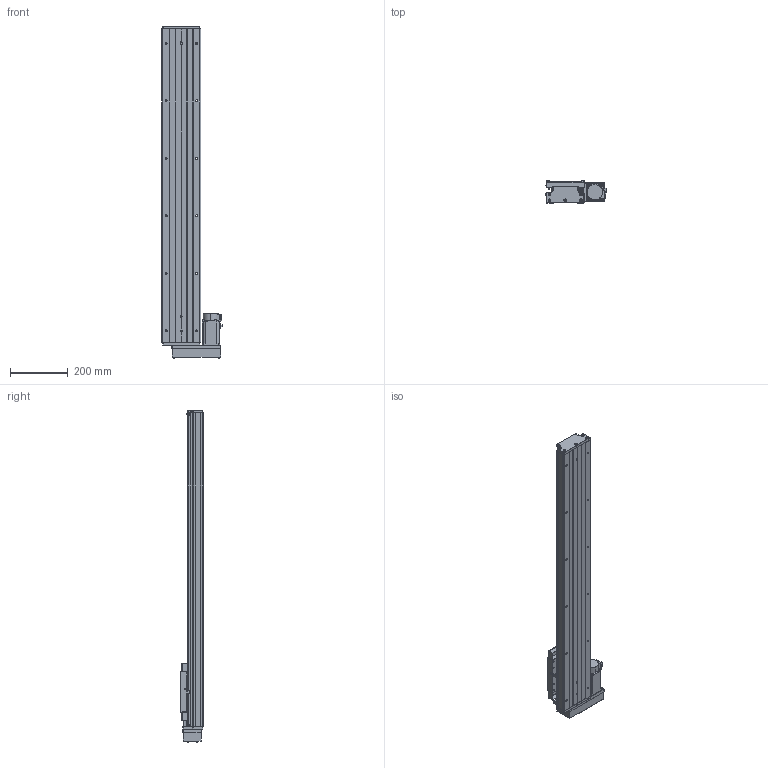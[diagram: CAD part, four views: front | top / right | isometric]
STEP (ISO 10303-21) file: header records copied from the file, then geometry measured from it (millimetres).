
FILE_DESCRIPTION (( 'STEP AP203' ), '1' );
FILE_NAME ('GTH14-850-BR-M40-C4.step', '2023-06-30T08:55:51', ( '微软用户' ), ( '微软中国' ), 'SwSTEP 2.0', 'SolidWorks 2020', '' );
FILE_SCHEMA (( 'CONFIG_CONTROL_DESIGN' ));
Length unit declared in the file: millimetre
Products named in the file (19): GTH14-002_GTH14-002; CTHA60-016; GBT 70.2-M4¡Á35_M4¡Á35; GTH14-004; GBT 70.1-M3℅5; GTH14-015-2_CTHA86-015-2; GTH14-005; GBT77-2000 M3×3; GTH14-033; GB1155-6X6; GTH14-031; GTH14-850-BR-M40-C4; GBT70.1 M5℅16; GBT 70.2-M3¡Á5_M3¡Á6; CTHA60-017; す晦芛蹟隊 M3℅5; GTH14-001_850; EE_SX911P_R; HG-KN43J-S100
Assembly tree (58 placements, depth 2):
  GTH14-850-BR-M40-C4
    GTH14-001_850
    GTH14-002_GTH14-002
    GTH14-004
    GTH14-005
    GB1155-6X6  x2
    GBT70.1 M5℅16  x10
    CTHA60-017  x3
    EE_SX911P_R  x3
    CTHA60-016  x2
    GBT 70.1-M3℅5  x6
    GBT77-2000 M3×3  x6
    GTH14-031
    GBT 70.2-M3¡Á5_M3¡Á6  x8
    す晦芛蹟隊 M3℅5  x6
    HG-KN43J-S100
    GBT 70.2-M4¡Á35_M4¡Á35  x4
    GTH14-015-2_CTHA86-015-2
    GTH14-033
Bounding box: 209.3 x 78 x 1154.2 mm (x, y, z)
Volume: 6246178.9 mm3; surface area: 1022181 mm2
Topology: 61 solids, 61 shells, 2463 faces, 5857 edges, 3610 vertices
Faces by surface type: plane 1309, cylinder 664, cone 314, torus 124, sphere 32, bspline 20
Entity records: 44466 total; most frequent: CARTESIAN_POINT 9907, DIRECTION 6549, ORIENTED_EDGE 6404, EDGE_CURVE 3202, AXIS2_PLACEMENT_3D 2244, LINE 2061, VECTOR 2061, VERTEX_POINT 2028
